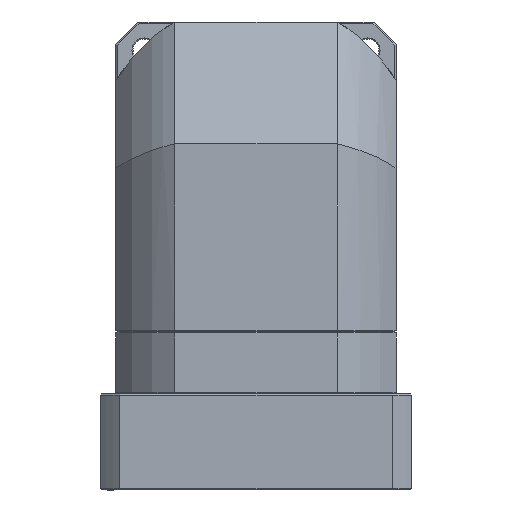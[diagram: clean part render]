
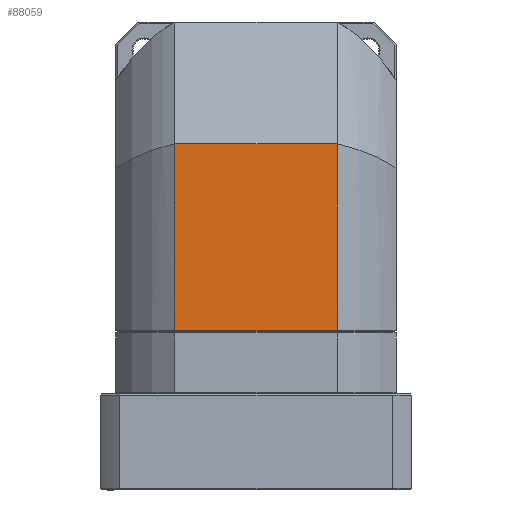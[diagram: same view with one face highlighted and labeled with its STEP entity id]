
A CAD part, front view. The second image highlights one B-rep face of the part: STEP entity #88059.
In plain terms, the highlighted planar face has unit normal (0, 1, 0).
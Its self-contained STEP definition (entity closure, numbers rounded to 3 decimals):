
#1503 = LINE ( 'NONE', #15613, #81540 ) ;
#2828 = ORIENTED_EDGE ( 'NONE', *, *, #5686, .T. ) ;
#5686 = EDGE_CURVE ( 'NONE', #91572, #63221, #93344, .T. ) ;
#11987 = ORIENTED_EDGE ( 'NONE', *, *, #82745, .T. ) ;
#13508 = VECTOR ( 'NONE', #68439, 1000. ) ;
#13877 = DIRECTION ( 'NONE',  ( 1., 0., 0. ) ) ;
#15327 = LINE ( 'NONE', #98177, #56593 ) ;
#15613 = CARTESIAN_POINT ( 'NONE',  ( 0., -172.111, 7.5 ) ) ;
#17351 = VERTEX_POINT ( 'NONE', #46006 ) ;
#21189 = CARTESIAN_POINT ( 'NONE',  ( -33.407, -172.111, -69.2 ) ) ;
#22139 = CARTESIAN_POINT ( 'NONE',  ( 33.407, -172.111, -30.62 ) ) ;
#28018 = DIRECTION ( 'NONE',  ( 0., -1., 0. ) ) ;
#29362 = LINE ( 'NONE', #91267, #63211 ) ;
#30478 = FACE_OUTER_BOUND ( 'NONE', #99758, .T. ) ;
#35598 = CARTESIAN_POINT ( 'NONE',  ( 33.407, -172.111, -69.2 ) ) ;
#43620 = VERTEX_POINT ( 'NONE', #21189 ) ;
#46006 = CARTESIAN_POINT ( 'NONE',  ( -33.407, -172.111, 7.5 ) ) ;
#52423 = DIRECTION ( 'NONE',  ( 0., 0., 1. ) ) ;
#56015 = ORIENTED_EDGE ( 'NONE', *, *, #93929, .F. ) ;
#56593 = VECTOR ( 'NONE', #52423, 1000. ) ;
#59579 = CARTESIAN_POINT ( 'NONE',  ( 33.407, -172.111, 7.5 ) ) ;
#63211 = VECTOR ( 'NONE', #13877, 1000. ) ;
#63221 = VERTEX_POINT ( 'NONE', #35598 ) ;
#64969 = AXIS2_PLACEMENT_3D ( 'NONE', #74277, #28018, #81988 ) ;
#66205 = EDGE_CURVE ( 'NONE', #43620, #17351, #15327, .T. ) ;
#68439 = DIRECTION ( 'NONE',  ( 0., 0., -1. ) ) ;
#74277 = CARTESIAN_POINT ( 'NONE',  ( -33.407, -172.111, -69.2 ) ) ;
#77490 = DIRECTION ( 'NONE',  ( 1., 0., 0. ) ) ;
#80018 = ORIENTED_EDGE ( 'NONE', *, *, #66205, .T. ) ;
#81540 = VECTOR ( 'NONE', #77490, 1000. ) ;
#81988 = DIRECTION ( 'NONE',  ( 1., 0., 0. ) ) ;
#82745 = EDGE_CURVE ( 'NONE', #17351, #91572, #1503, .T. ) ;
#88059 = ADVANCED_FACE ( 'NONE', ( #30478 ), #96804, .F. ) ;
#91267 = CARTESIAN_POINT ( 'NONE',  ( 0., -172.111, -69.2 ) ) ;
#91572 = VERTEX_POINT ( 'NONE', #59579 ) ;
#93344 = LINE ( 'NONE', #22139, #13508 ) ;
#93929 = EDGE_CURVE ( 'NONE', #43620, #63221, #29362, .T. ) ;
#96804 = PLANE ( 'NONE',  #64969 ) ;
#98177 = CARTESIAN_POINT ( 'NONE',  ( -33.407, -172.111, -30.62 ) ) ;
#99758 = EDGE_LOOP ( 'NONE', ( #2828, #56015, #80018, #11987 ) ) ;
